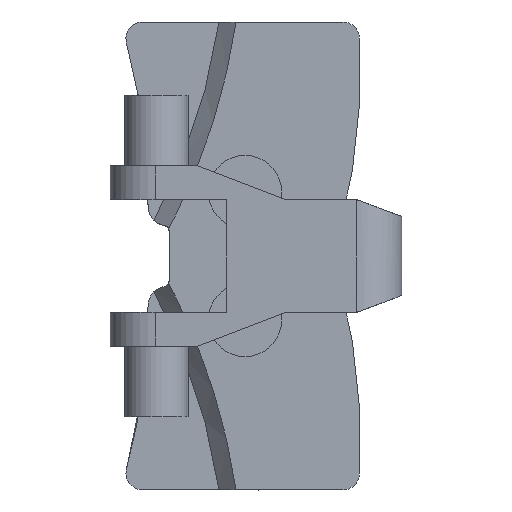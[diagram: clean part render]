
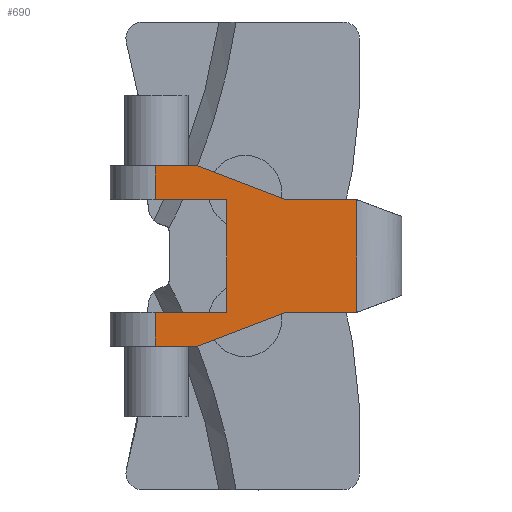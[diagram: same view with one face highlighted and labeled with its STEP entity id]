
A CAD part, front view. The second image highlights one B-rep face of the part: STEP entity #690.
In plain terms, the highlighted planar face has unit normal (0, -1, 0).
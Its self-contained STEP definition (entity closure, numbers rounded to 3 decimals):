
#525 = ORIENTED_EDGE ( 'NONE', *, *, #660, .T. ) ;
#526 = EDGE_CURVE ( 'NONE', #676, #670, #2860, .T. ) ;
#528 = ORIENTED_EDGE ( 'NONE', *, *, #655, .T. ) ;
#529 = ORIENTED_EDGE ( 'NONE', *, *, #526, .T. ) ;
#531 = EDGE_LOOP ( 'NONE', ( #681, #680, #659, #669, #665, #675, #663, #662, #672, #677, #699, #529, #525, #528 ) ) ;
#533 = VERTEX_POINT ( 'NONE', #2759 ) ;
#539 = VERTEX_POINT ( 'NONE', #2823 ) ;
#540 = VERTEX_POINT ( 'NONE', #2830 ) ;
#582 = VERTEX_POINT ( 'NONE', #2904 ) ;
#655 = EDGE_CURVE ( 'NONE', #683, #533, #3275, .T. ) ;
#658 = EDGE_CURVE ( 'NONE', #706, #540, #3198, .T. ) ;
#659 = ORIENTED_EDGE ( 'NONE', *, *, #674, .T. ) ;
#660 = EDGE_CURVE ( 'NONE', #670, #683, #3218, .T. ) ;
#661 = EDGE_CURVE ( 'NONE', #696, #582, #3065, .T. ) ;
#662 = ORIENTED_EDGE ( 'NONE', *, *, #673, .T. ) ;
#663 = ORIENTED_EDGE ( 'NONE', *, *, #688, .T. ) ;
#664 = EDGE_CURVE ( 'NONE', #533, #706, #3228, .T. ) ;
#665 = ORIENTED_EDGE ( 'NONE', *, *, #661, .T. ) ;
#666 = EDGE_CURVE ( 'NONE', #582, #684, #3181, .T. ) ;
#668 = EDGE_CURVE ( 'NONE', #696, #539, #3139, .T. ) ;
#669 = ORIENTED_EDGE ( 'NONE', *, *, #668, .F. ) ;
#670 = VERTEX_POINT ( 'NONE', #3219 ) ;
#671 = EDGE_CURVE ( 'NONE', #689, #676, #3067, .T. ) ;
#672 = ORIENTED_EDGE ( 'NONE', *, *, #698, .T. ) ;
#673 = EDGE_CURVE ( 'NONE', #697, #686, #3118, .T. ) ;
#674 = EDGE_CURVE ( 'NONE', #540, #539, #3217, .T. ) ;
#675 = ORIENTED_EDGE ( 'NONE', *, *, #666, .T. ) ;
#676 = VERTEX_POINT ( 'NONE', #3108 ) ;
#677 = ORIENTED_EDGE ( 'NONE', *, *, #695, .F. ) ;
#680 = ORIENTED_EDGE ( 'NONE', *, *, #658, .T. ) ;
#681 = ORIENTED_EDGE ( 'NONE', *, *, #664, .T. ) ;
#683 = VERTEX_POINT ( 'NONE', #3114 ) ;
#684 = VERTEX_POINT ( 'NONE', #3152 ) ;
#685 = VERTEX_POINT ( 'NONE', #3138 ) ;
#686 = VERTEX_POINT ( 'NONE', #3149 ) ;
#688 = EDGE_CURVE ( 'NONE', #684, #697, #3148, .T. ) ;
#689 = VERTEX_POINT ( 'NONE', #3210 ) ;
#690 = ADVANCED_FACE ( 'NONE', ( #3209 ), #3206, .T. ) ;
#695 = EDGE_CURVE ( 'NONE', #689, #685, #3145, .T. ) ;
#696 = VERTEX_POINT ( 'NONE', #3260 ) ;
#697 = VERTEX_POINT ( 'NONE', #3252 ) ;
#698 = EDGE_CURVE ( 'NONE', #686, #685, #3254, .T. ) ;
#699 = ORIENTED_EDGE ( 'NONE', *, *, #671, .T. ) ;
#706 = VERTEX_POINT ( 'NONE', #3091 ) ;
#2759 = CARTESIAN_POINT ( 'NONE',  ( 34.038, -19.776, -31.499 ) ) ;
#2766 = DIRECTION ( 'NONE',  ( 0., 0., -1. ) ) ;
#2767 = VECTOR ( 'NONE', #2766, 1000. ) ;
#2823 = CARTESIAN_POINT ( 'NONE',  ( 28.453, -19.776, -37.499 ) ) ;
#2830 = CARTESIAN_POINT ( 'NONE',  ( 21.338, -19.776, -37.499 ) ) ;
#2859 = CARTESIAN_POINT ( 'NONE',  ( 21.338, -19.776, -21.499 ) ) ;
#2860 = LINE ( 'NONE', #2859, #2767 ) ;
#2904 = CARTESIAN_POINT ( 'NONE',  ( 44.46, -19.776, -31.499 ) ) ;
#3058 = DIRECTION ( 'NONE',  ( -1., 0., 0. ) ) ;
#3059 = VECTOR ( 'NONE', #3058, 1000. ) ;
#3061 = CARTESIAN_POINT ( 'NONE',  ( 35.712, -19.776, -5.499 ) ) ;
#3064 = CARTESIAN_POINT ( 'NONE',  ( 29.17, -19.776, -37.366 ) ) ;
#3065 = LINE ( 'NONE', #3064, #3141 ) ;
#3066 = CARTESIAN_POINT ( 'NONE',  ( 35.712, -19.776, -31.499 ) ) ;
#3067 = LINE ( 'NONE', #3061, #3059 ) ;
#3068 = DIRECTION ( 'NONE',  ( 0., 0., -1. ) ) ;
#3069 = DIRECTION ( 'NONE',  ( 0., 1., 0. ) ) ;
#3070 = CARTESIAN_POINT ( 'NONE',  ( 28.453, -19.776, -35.499 ) ) ;
#3071 = AXIS2_PLACEMENT_3D ( 'NONE', #3070, #3069, #3068 ) ;
#3091 = CARTESIAN_POINT ( 'NONE',  ( 21.338, -19.776, -31.499 ) ) ;
#3108 = CARTESIAN_POINT ( 'NONE',  ( 21.338, -19.776, -5.499 ) ) ;
#3111 = DIRECTION ( 'NONE',  ( 1., 0., 0. ) ) ;
#3112 = VECTOR ( 'NONE', #3111, 1000. ) ;
#3113 = CARTESIAN_POINT ( 'NONE',  ( 35.712, -19.776, -37.499 ) ) ;
#3114 = CARTESIAN_POINT ( 'NONE',  ( 34.038, -19.776, -11.499 ) ) ;
#3115 = DIRECTION ( 'NONE',  ( -1., 0., 0. ) ) ;
#3116 = VECTOR ( 'NONE', #3115, 1000. ) ;
#3117 = CARTESIAN_POINT ( 'NONE',  ( 35.712, -19.776, -11.499 ) ) ;
#3118 = LINE ( 'NONE', #3117, #3116 ) ;
#3126 = DIRECTION ( 'NONE',  ( -0.934, 0., 0.358 ) ) ;
#3127 = VECTOR ( 'NONE', #3126, 1000. ) ;
#3138 = CARTESIAN_POINT ( 'NONE',  ( 29.17, -19.776, -5.631 ) ) ;
#3139 = CIRCLE ( 'NONE', #3071, 2. ) ;
#3140 = DIRECTION ( 'NONE',  ( 0.934, 0., 0.358 ) ) ;
#3141 = VECTOR ( 'NONE', #3140, 1000. ) ;
#3145 = CIRCLE ( 'NONE', #3265, 2. ) ;
#3147 = CARTESIAN_POINT ( 'NONE',  ( 57.038, -19.776, -21.499 ) ) ;
#3148 = LINE ( 'NONE', #3147, #3208 ) ;
#3149 = CARTESIAN_POINT ( 'NONE',  ( 44.46, -19.776, -11.499 ) ) ;
#3152 = CARTESIAN_POINT ( 'NONE',  ( 57.038, -19.776, -31.499 ) ) ;
#3181 = LINE ( 'NONE', #3066, #3216 ) ;
#3182 = AXIS2_PLACEMENT_3D ( 'NONE', #3268, #3267, #3266 ) ;
#3183 = DIRECTION ( 'NONE',  ( -1., 0., 0. ) ) ;
#3184 = VECTOR ( 'NONE', #3183, 1000. ) ;
#3196 = VECTOR ( 'NONE', #3220, 1000. ) ;
#3197 = CARTESIAN_POINT ( 'NONE',  ( 21.338, -19.776, -21.499 ) ) ;
#3198 = LINE ( 'NONE', #3197, #3196 ) ;
#3205 = CARTESIAN_POINT ( 'NONE',  ( 28.453, -19.776, -7.499 ) ) ;
#3206 = PLANE ( 'NONE',  #3182 ) ;
#3207 = DIRECTION ( 'NONE',  ( 0., 0., 1. ) ) ;
#3208 = VECTOR ( 'NONE', #3207, 1000. ) ;
#3209 = FACE_OUTER_BOUND ( 'NONE', #531, .T. ) ;
#3210 = CARTESIAN_POINT ( 'NONE',  ( 28.453, -19.776, -5.499 ) ) ;
#3215 = DIRECTION ( 'NONE',  ( 1., 0., 0. ) ) ;
#3216 = VECTOR ( 'NONE', #3215, 1000. ) ;
#3217 = LINE ( 'NONE', #3113, #3112 ) ;
#3218 = LINE ( 'NONE', #3226, #3225 ) ;
#3219 = CARTESIAN_POINT ( 'NONE',  ( 21.338, -19.776, -11.499 ) ) ;
#3220 = DIRECTION ( 'NONE',  ( 0., 0., -1. ) ) ;
#3224 = DIRECTION ( 'NONE',  ( 1., 0., 0. ) ) ;
#3225 = VECTOR ( 'NONE', #3224, 1000. ) ;
#3226 = CARTESIAN_POINT ( 'NONE',  ( 35.712, -19.776, -11.499 ) ) ;
#3227 = CARTESIAN_POINT ( 'NONE',  ( 35.712, -19.776, -31.499 ) ) ;
#3228 = LINE ( 'NONE', #3227, #3184 ) ;
#3249 = DIRECTION ( 'NONE',  ( 0., 0., -1. ) ) ;
#3250 = DIRECTION ( 'NONE',  ( 0., 1., 0. ) ) ;
#3252 = CARTESIAN_POINT ( 'NONE',  ( 57.038, -19.776, -11.499 ) ) ;
#3253 = CARTESIAN_POINT ( 'NONE',  ( 44.46, -19.776, -11.499 ) ) ;
#3254 = LINE ( 'NONE', #3253, #3127 ) ;
#3260 = CARTESIAN_POINT ( 'NONE',  ( 29.17, -19.776, -37.366 ) ) ;
#3265 = AXIS2_PLACEMENT_3D ( 'NONE', #3205, #3250, #3249 ) ;
#3266 = DIRECTION ( 'NONE',  ( 0., 0., -1. ) ) ;
#3267 = DIRECTION ( 'NONE',  ( 0., -1., 0. ) ) ;
#3268 = CARTESIAN_POINT ( 'NONE',  ( 35.712, -19.776, -21.499 ) ) ;
#3272 = DIRECTION ( 'NONE',  ( 0., 0., -1. ) ) ;
#3273 = VECTOR ( 'NONE', #3272, 1000. ) ;
#3274 = CARTESIAN_POINT ( 'NONE',  ( 34.038, -19.776, -21.499 ) ) ;
#3275 = LINE ( 'NONE', #3274, #3273 ) ;
